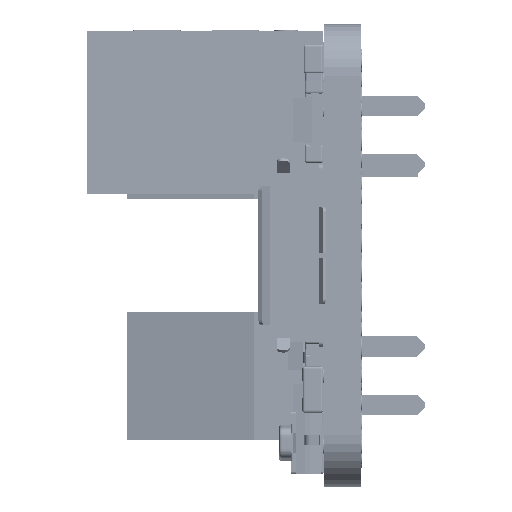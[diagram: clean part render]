
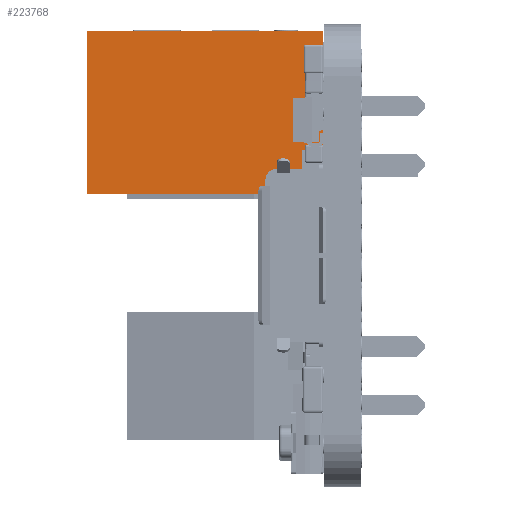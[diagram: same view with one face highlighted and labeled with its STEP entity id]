
A CAD part, left-side view. The second image highlights one B-rep face of the part: STEP entity #223768.
In plain terms, the highlighted planar face has unit normal (-1, 0, 0).
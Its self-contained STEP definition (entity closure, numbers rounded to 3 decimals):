
#43401 = CARTESIAN_POINT ( 'NONE',  ( -9.825, 10.21, 3.525 ) ) ;
#43403 = CARTESIAN_POINT ( 'NONE',  ( -9.825, 0.01, 3.525 ) ) ;
#43669 = CARTESIAN_POINT ( 'NONE',  ( -9.825, 10.21, -3.525 ) ) ;
#43671 = CARTESIAN_POINT ( 'NONE',  ( -9.825, 0.01, -3.525 ) ) ;
#53689 = LINE ( 'NONE', #62419, #53691 ) ;
#53691 = VECTOR ( 'NONE', #62420, 1000. ) ;
#62419 = CARTESIAN_POINT ( 'NONE',  ( -9.825, 10.21, 3.525 ) ) ;
#62420 = DIRECTION ( 'NONE',  ( 0., -1., 0. ) ) ;
#70163 = LINE ( 'NONE', #74343, #70165 ) ;
#70165 = VECTOR ( 'NONE', #74346, 1000. ) ;
#70168 = LINE ( 'NONE', #74350, #70171 ) ;
#70171 = VECTOR ( 'NONE', #74351, 1000. ) ;
#70174 = LINE ( 'NONE', #74356, #70178 ) ;
#70178 = VECTOR ( 'NONE', #74359, 1000. ) ;
#74343 = CARTESIAN_POINT ( 'NONE',  ( -9.825, 10.21, -3.525 ) ) ;
#74346 = DIRECTION ( 'NONE',  ( 0., -1., 0. ) ) ;
#74350 = CARTESIAN_POINT ( 'NONE',  ( -9.825, 0.01, 3.525 ) ) ;
#74351 = DIRECTION ( 'NONE',  ( 0., 0., -1. ) ) ;
#74356 = CARTESIAN_POINT ( 'NONE',  ( -9.825, 10.21, -3.525 ) ) ;
#74359 = DIRECTION ( 'NONE',  ( 0., 0., 1. ) ) ;
#195795 = EDGE_LOOP ( 'NONE', ( #267619, #267624, #267630, #267637 ) ) ;
#207553 = VERTEX_POINT ( 'NONE', #43401 ) ;
#207556 = VERTEX_POINT ( 'NONE', #43403 ) ;
#207842 = VERTEX_POINT ( 'NONE', #43669 ) ;
#207845 = VERTEX_POINT ( 'NONE', #43671 ) ;
#212390 = EDGE_CURVE ( 'NONE', #207553, #207556, #53689, .T. ) ;
#212677 = EDGE_CURVE ( 'NONE', #207842, #207845, #70163, .T. ) ;
#212679 = EDGE_CURVE ( 'NONE', #207556, #207845, #70168, .T. ) ;
#212681 = EDGE_CURVE ( 'NONE', #207842, #207553, #70174, .T. ) ;
#223768 = ADVANCED_FACE ( 'NONE', ( #297542 ), #309218, .F. ) ;
#255244 = AXIS2_PLACEMENT_3D ( 'NONE', #309220, #309221, #309224 ) ;
#267619 = ORIENTED_EDGE ( 'NONE', *, *, #212677, .T. ) ;
#267624 = ORIENTED_EDGE ( 'NONE', *, *, #212679, .F. ) ;
#267630 = ORIENTED_EDGE ( 'NONE', *, *, #212390, .F. ) ;
#267637 = ORIENTED_EDGE ( 'NONE', *, *, #212681, .F. ) ;
#297542 = FACE_OUTER_BOUND ( 'NONE', #195795, .T. ) ;
#309218 = PLANE ( 'NONE',  #255244 ) ;
#309220 = CARTESIAN_POINT ( 'NONE',  ( -9.825, 10.21, -3.525 ) ) ;
#309221 = DIRECTION ( 'NONE',  ( 1., 0., 0. ) ) ;
#309224 = DIRECTION ( 'NONE',  ( 0., 0., -1. ) ) ;
